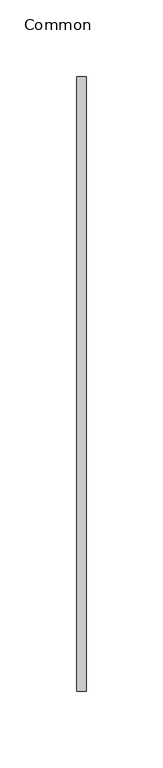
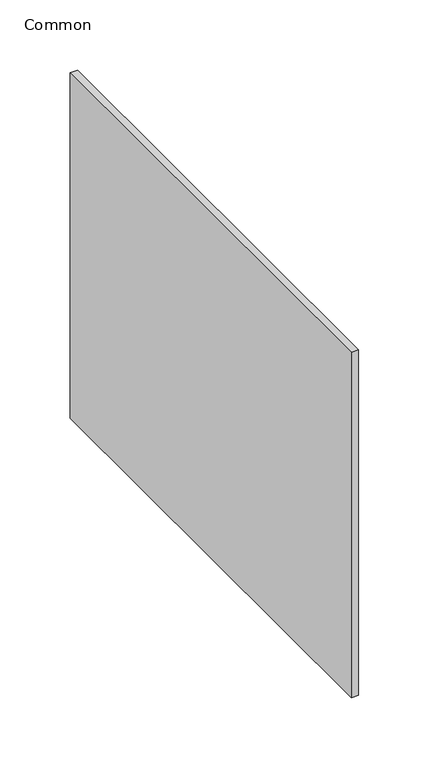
"""IFC4 building model written with IfcOpenShell, lengths in millimetres: duct fitting geometry, 071_角型ユニオン : Common."""

import ifcopenshell
import ifcopenshell.guid

model = None  # the IFC model being written
_history = None  # IfcOwnerHistory: only IFC2X3 demands one
_inside = {}  # id of a spatial element -> (the spatial element, [elements in it])
_under = {}  # id of a project, library or spatial element -> (it, [spatial elements below it])
_declared = {}  # id of a project -> (the project, [libraries it declares])
_typed = {}  # id of a type object -> (the type object, [elements of that type])
_made_of = {}  # id of a material, layer set ... -> (it, [elements and type objects made of it])


def new_model(schema):
    """Start an empty IFC model of exactly this schema.

    Asked for "IFC4X3", IfcOpenShell would pick the latest addendum, in which some entities
    have other attributes; the version numbers below select the first issue.
    IFC2X3 requires an IfcOwnerHistory on every rooted entity: one is made here for all.
    """
    global model, _history
    if schema == "IFC4X3":
        model = ifcopenshell.file(schema_version=(4, 3, 0, 0))
    else:
        model = ifcopenshell.file(schema=schema)
    _inside.clear()
    _under.clear()
    _declared.clear()
    _typed.clear()
    _made_of.clear()
    _history = None
    if model.schema == "IFC2X3":
        org = make("IfcOrganization", Name="unknown")
        user = make(
            "IfcPersonAndOrganization",
            ThePerson=make("IfcPerson", FamilyName="unknown"),
            TheOrganization=org,
        )
        app = make(
            "IfcApplication",
            ApplicationDeveloper=org,
            Version="unknown",
            ApplicationFullName="unknown",
            ApplicationIdentifier="unknown",
        )
        _history = make(
            "IfcOwnerHistory",
            OwningUser=user,
            OwningApplication=app,
            ChangeAction="ADDED",
            CreationDate=0,
        )
    return model


def make(cls, **values):
    """One entity of the class cls with the attributes given. An attribute that is None is left unset."""
    return model.create_entity(
        cls, **{name: value for name, value in values.items() if value is not None}
    )


def rooted(cls, **values):
    """An entity with a GlobalId (a new one), such as an element, a storey or a relation."""
    return make(cls, GlobalId=ifcopenshell.guid.new(), OwnerHistory=_history, **values)


def si_unit(unit_type, name, prefix=None):
    """IfcSIUnit, for example si_unit("LENGTHUNIT", "METRE", prefix="MILLI")."""
    return make("IfcSIUnit", UnitType=unit_type, Prefix=prefix, Name=name)


def assignment(units):
    """IfcUnitAssignment: the units of a project."""
    return None if units is None else make("IfcUnitAssignment", Units=units)


def point(xyz):
    """IfcCartesianPoint."""
    return None if xyz is None else make("IfcCartesianPoint", Coordinates=xyz)


def direction(xyz):
    """IfcDirection."""
    return None if xyz is None else make("IfcDirection", DirectionRatios=xyz)


def frame(location, z_axis=None, x_axis=None):
    """IfcAxis2Placement3D, a coordinate frame: its origin and axes. An axis left out is left unset."""
    return make(
        "IfcAxis2Placement3D",
        Location=point(location),
        Axis=direction(z_axis),
        RefDirection=direction(x_axis),
    )


def origin():
    """The frame at (0, 0, 0) with its axes left unset."""
    return frame((0.0, 0.0, 0.0))


def place(relative_to, where):
    """IfcLocalPlacement: puts the frame where relative to a parent placement (None: the world)."""
    return make(
        "IfcLocalPlacement", PlacementRelTo=relative_to, RelativePlacement=where
    )


def context(
    kind, dimensions, precision=None, world=None, true_north=None, identifier=None
):
    """IfcGeometricRepresentationContext, for example the 3D "Model" context."""
    return make(
        "IfcGeometricRepresentationContext",
        ContextIdentifier=identifier,
        ContextType=kind,
        CoordinateSpaceDimension=dimensions,
        Precision=precision,
        WorldCoordinateSystem=world,
        TrueNorth=true_north,
    )


def project(units=None, contexts=None):
    """IfcProject with its units and contexts."""
    return rooted(
        "IfcProject",
        Name="project",
        RepresentationContexts=contexts,
        UnitsInContext=assignment(units),
    )


def spatial(cls, under=None, at=None, **own):
    """A site, building, storey or space (cls), placed at a placement, below another one or the project."""
    s = rooted(cls, ObjectPlacement=at, **own)
    if under is not None:
        _under.setdefault(under.id(), (under, []))[1].append(s)
    return s


def polyline(points):
    """IfcPolyline through the points."""
    return make("IfcPolyline", Points=[point(p) for p in points])


def outline(outer, holes=None, kind="AREA"):
    """IfcArbitraryClosedProfileDef: a profile drawn as a closed curve; with holes, ...WithVoids."""
    if holes is None:
        return make("IfcArbitraryClosedProfileDef", ProfileType=kind, OuterCurve=outer)
    return make(
        "IfcArbitraryProfileDefWithVoids",
        ProfileType=kind,
        OuterCurve=outer,
        InnerCurves=holes,
    )


def extrude(swept, where, along, depth):
    """IfcExtrudedAreaSolid: the profile swept, set in the frame where, extruded along a direction by depth."""
    return make(
        "IfcExtrudedAreaSolid",
        SweptArea=swept,
        Position=where,
        ExtrudedDirection=direction(along),
        Depth=depth,
    )


def shape(context_of_items, identifier, shape_type, items):
    """IfcShapeRepresentation: the items that make up one representation, for example the "Body"."""
    return make(
        "IfcShapeRepresentation",
        ContextOfItems=context_of_items,
        RepresentationIdentifier=identifier,
        RepresentationType=shape_type,
        Items=items,
    )


def source(mapping_origin, context_of_items, identifier, shape_type, items):
    """IfcRepresentationMap: a shape defined once, which mapped items show again and again."""
    return make(
        "IfcRepresentationMap",
        MappingOrigin=mapping_origin,
        MappedRepresentation=shape(context_of_items, identifier, shape_type, items),
    )


def transform(
    local_origin,
    x_axis=None,
    y_axis=None,
    z_axis=None,
    scale=None,
    scale2=None,
    scale3=None,
    uniform=True,
):
    """IfcCartesianTransformationOperator3D, or its non-uniform kind. x_axis, y_axis, z_axis: its Axis1, 2, 3."""
    if uniform:
        return make(
            "IfcCartesianTransformationOperator3D",
            Axis1=direction(x_axis),
            Axis2=direction(y_axis),
            LocalOrigin=point(local_origin),
            Scale=scale,
            Axis3=direction(z_axis),
        )
    return make(
        "IfcCartesianTransformationOperator3DnonUniform",
        Axis1=direction(x_axis),
        Axis2=direction(y_axis),
        LocalOrigin=point(local_origin),
        Scale=scale,
        Axis3=direction(z_axis),
        Scale2=scale2,
        Scale3=scale3,
    )


def mapped(mapping_source, mapping_target):
    """IfcMappedItem: shows the shape of a source again, moved by a transform."""
    return make(
        "IfcMappedItem", MappingSource=mapping_source, MappingTarget=mapping_target
    )


def made_of(thing, what):
    """Note that an element or type object is made of a material, layer set ...; save() writes the relation."""
    if what is not None:
        _made_of.setdefault(what.id(), (what, []))[1].append(thing)
    return thing


def element(
    cls,
    number,
    at=None,
    inside=None,
    cuts=None,
    type_object=None,
    material=None,
    context=None,
    identifier="Body",
    shape_type=None,
    held_by="IfcProductDefinitionShape",
    body=None,
    shapes=None,
    **own,
):
    """One element of the class cls, such as IfcWall. Its Tag is "e" and its number.

    at: its placement. inside: the storey or other place that contains it. cuts: it is an
    opening in that element (IfcRelVoidsElement). A single representation is given by context,
    identifier, shape_type and body (its items); several are given by shapes. held_by: the class
    of the entity that holds the representations. save() writes the other relations.
    """
    e = rooted(cls, Tag="e%d" % number, ObjectPlacement=at, **own)
    if body is not None:
        shapes = [shape(context, identifier, shape_type, body)]
    if shapes is not None:
        e.Representation = make(held_by, Representations=shapes)
    if inside is not None:
        _inside.setdefault(inside.id(), (inside, []))[1].append(e)
    if cuts is not None:
        rooted(
            "IfcRelVoidsElement", RelatingBuildingElement=cuts, RelatedOpeningElement=e
        )
    if type_object is not None:
        _typed.setdefault(type_object.id(), (type_object, []))[1].append(e)
    return made_of(e, material)


def aggregate(whole, parts):
    """IfcRelAggregates: a whole, such as a stair, and the parts it consists of."""
    return rooted("IfcRelAggregates", RelatingObject=whole, RelatedObjects=parts)


def save(model, path):
    """Write the relations noted so far, then the file.

    IfcRelAggregates (storeys below a building ...), IfcRelContainedInSpatialStructure (elements
    in a storey), IfcRelDefinesByType, IfcRelAssociatesMaterial and IfcRelDeclares: one each for
    every whole, place, type object, material and project.
    """
    for whole, parts in _under.values():
        aggregate(whole, parts)
    for where, things in _inside.values():
        rooted(
            "IfcRelContainedInSpatialStructure",
            RelatedElements=things,
            RelatingStructure=where,
        )
    for kind, things in _typed.values():
        rooted("IfcRelDefinesByType", RelatedObjects=things, RelatingType=kind)
    for what, things in _made_of.values():
        rooted("IfcRelAssociatesMaterial", RelatedObjects=things, RelatingMaterial=what)
    for by, libraries in _declared.values():
        rooted("IfcRelDeclares", RelatingContext=by, RelatedDefinitions=libraries)
    model.write(path)


def common_c334632e(model_context):
    return source(origin(), model_context, "Body", "SweptSolid", [
        extrude(outline(polyline([(3.0, 200.0), (3.0, -200.0), (-3.0, -200.0), (-3.0, 200.0), (3.0, 200.0)])), frame((0.0, 0.0, -150.0), z_axis=(0.0, 0.0, 1.0), x_axis=(1.0, 0.0, 0.0)), (0.0, 0.0, 1.0), 300.0),
    ])


if __name__ == "__main__":
    model = new_model("IFC4")
    model_context = context("Model", 3, world=origin())
    ifc_project = project(units=[si_unit("LENGTHUNIT", "METRE", prefix="MILLI")], contexts=[model_context])
    site = spatial("IfcSite", under=ifc_project)
    building = spatial("IfcBuilding", under=site)
    placement = place(None, origin())
    common_shape = common_c334632e(model_context)
    element("IfcDuctFitting", 1, ObjectType="071_角型ユニオン : Common", at=placement, inside=building, context=model_context, shape_type="MappedRepresentation", body=[
        mapped(common_shape, transform((0.0, 0.0, 0.0), x_axis=(1.0, 0.0, 0.0), y_axis=(0.0, 1.0, 0.0), z_axis=(0.0, 0.0, 1.0))),
    ])
    save(model, "model.ifc")
